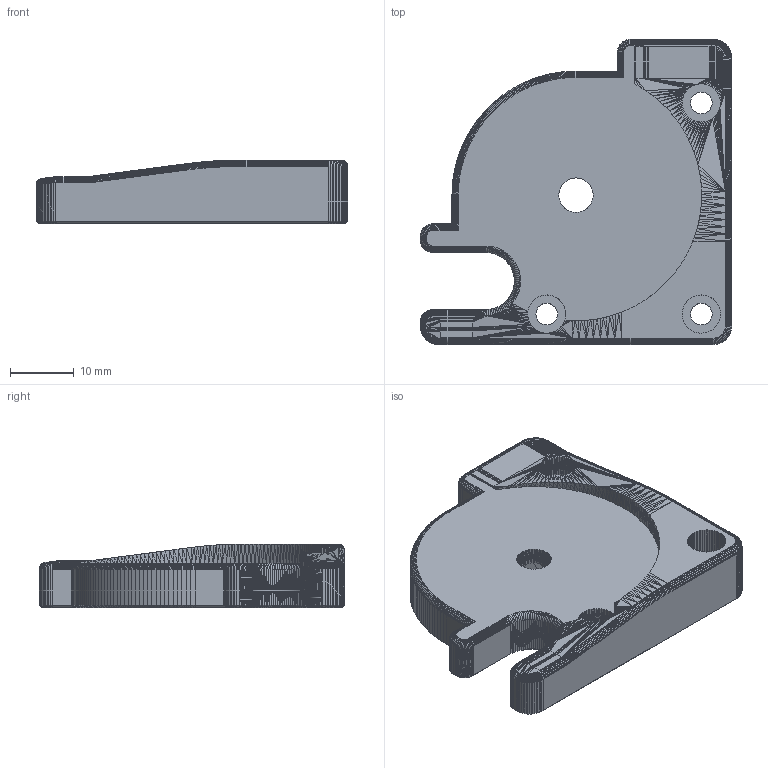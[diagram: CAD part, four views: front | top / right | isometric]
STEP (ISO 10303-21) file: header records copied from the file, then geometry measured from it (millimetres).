
FILE_DESCRIPTION(('Open CASCADE Model'),'2;1');
FILE_NAME('Open CASCADE Shape Model','2026-11-22T23:46:31',('Author'),( 'Open CASCADE'),'Open CASCADE STEP processor 8.0','Open CASCADE 8.0' ,'Unknown');
FILE_SCHEMA(('AUTOMOTIVE_DESIGN { 1 0 10303 214 1 1 1 1 }'));
Products named in the file (1): [a]_z_drive_baseplate_b_plus5mm_x2
Bounding box: 49 x 48 x 10 mm (x, y, z)
Volume: 13261.8 mm3; surface area: 5786.9 mm2
Topology: 1 solids, 1 shells, 9022 faces, 14576 edges, 5557 vertices
Faces by surface type: plane 9022
Entity records: 374846 total; most frequent: DIRECTION 61774, CARTESIAN_POINT 58308, LINE 43728, VECTOR 43728, ORIENTED_EDGE 29152, PCURVE 29152, DEFINITIONAL_REPRESENTATION 29152, EDGE_CURVE 14576
